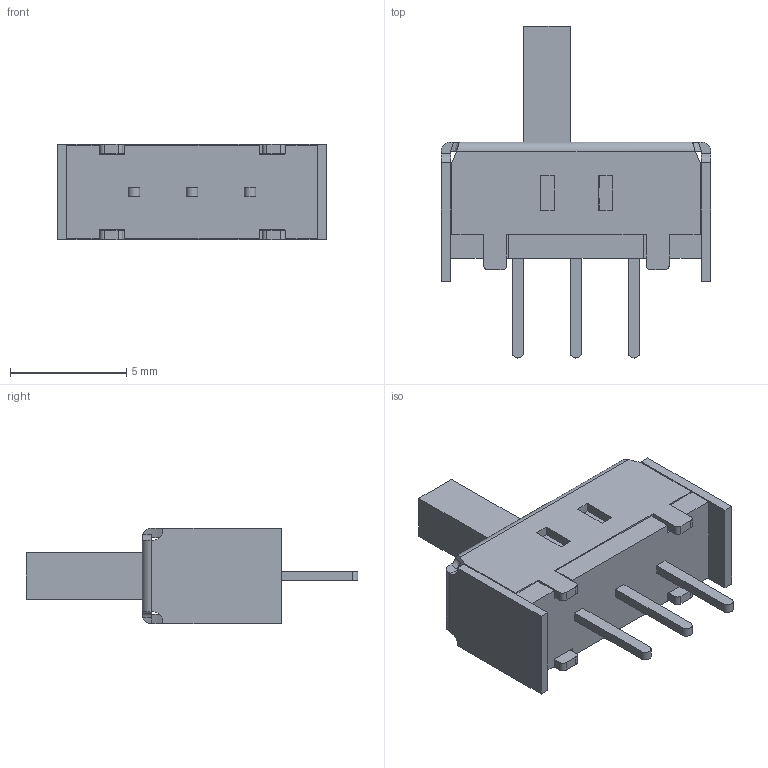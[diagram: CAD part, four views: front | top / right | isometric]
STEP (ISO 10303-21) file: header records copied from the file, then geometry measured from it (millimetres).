
FILE_DESCRIPTION (( 'STEP AP214' ), '1' );
FILE_NAME ('Same_Sky_SLW-116641-5A-S-D.step', '2025-01-07T19:01:10', ( '' ), ( '' ), 'SwSTEP 2.0', 'SolidWorks 2024', '' );
FILE_SCHEMA (( 'AUTOMOTIVE_DESIGN' ));
Length unit declared in the file: inch
Products named in the file (1): Same_Sky_SLW-116641-5A-S-D
Bounding box: 11.6 x 14.3 x 4.1 mm (x, y, z)
Volume: 173.4 mm3; surface area: 703.9 mm2
Topology: 3 solids, 3 shells, 203 faces, 562 edges, 372 vertices
Faces by surface type: plane 172, cylinder 25, bspline 6
Entity records: 6649 total; most frequent: CARTESIAN_POINT 1422, ORIENTED_EDGE 1124, DIRECTION 974, EDGE_CURVE 562, LINE 494, VECTOR 494, VERTEX_POINT 372, AXIS2_PLACEMENT_3D 240
